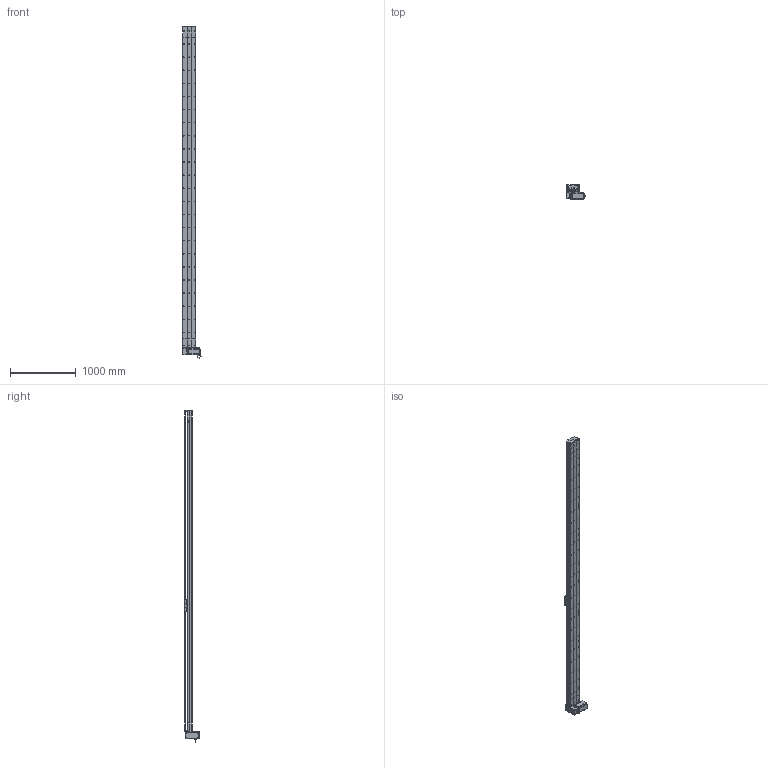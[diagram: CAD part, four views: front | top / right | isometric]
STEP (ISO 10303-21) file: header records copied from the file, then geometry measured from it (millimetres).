
FILE_DESCRIPTION (( 'STEP AP214' ), '1' );
FILE_NAME ('D20 TBH RU S4600.STEP', '2010-07-01T09:33:33', ( 'Conseil Régional Haute-Normandie' ), ( 'Conseil Régional Haute-Normandie' ), 'SwSTEP 2.0', 'SolidWorks 2010', '' );
FILE_SCHEMA (( 'AUTOMOTIVE_DESIGN' ));
Length unit declared in the file: millimetre
Products named in the file (40): Chariot D20B; vis M5 L70_Default; chariot D20B_Default; guide D20B; Plaque racord D20LH_Default; Renvoi RU D20_Default; vis M5 L25_Default; vis M5 L5_Default; couroie_Default; cache D20_Default; couvercle head D20_Default; rail head D20; corpl head D20_Default; Moteur motionking 110BLDC170A-640x; cache arbre D20_Default; plaque de  bout head D20B RU_Default; poulie head D20_Default; head RU_Default; rail tail D20; corpl tail D20_Default; tail D20_Default; vis M5 L8 90°_Default; plaque de  bout tail D20_Default; poulie tail D20_Default; tete d''axe poulie D20B; couvercle tail D20_Default; Couroie tail D20_Default; vis M5 L12_Default; Conecteur2_Default; codeur 110BLDC170A-630x; corps 110BLDC170A-630x; Conecteur_Default; vis M8 L12_Default; clavette; avant 110BLDC170A-630x; D20 TBH RU S4600; Course B L4600_Default; rail + couroie  D20 S4600; couvercle D20 S4600_Default; corp D20 S4600_Default
Assembly tree (71 placements, depth 4):
  D20 TBH RU S4600
    tail D20_Default
      vis M5 L8 90°_Default  x2
      vis M5 L25_Default  x2
      tete d''axe poulie D20B
      vis M5 L12_Default  x4
      plaque de  bout tail D20_Default
      Couroie tail D20_Default
      corpl tail D20_Default
      couvercle tail D20_Default
      rail tail D20
      poulie tail D20_Default
    chariot D20B_Default
      guide D20B  x2
      Chariot D20B
      vis M5 L12_Default  x4
    Course B L4600_Default
      couvercle D20 S4600_Default
      rail + couroie  D20 S4600
      corp D20 S4600_Default
    head RU_Default
      cache arbre D20_Default
      vis M5 L12_Default  x10
      vis M5 L5_Default  x4
      vis M5 L70_Default  x4
      plaque de  bout head D20B RU_Default
      vis M8 L12_Default  x4
      Plaque racord D20LH_Default
      poulie head D20_Default
      Renvoi RU D20_Default
      Moteur motionking 110BLDC170A-640x
        clavette
        corps 110BLDC170A-630x
        avant 110BLDC170A-630x
        codeur 110BLDC170A-630x
        Conecteur2_Default
        Conecteur_Default
      couroie_Default
      vis M5 L25_Default  x2
      cache D20_Default  x2
      rail head D20
      corpl head D20_Default
      couvercle head D20_Default
Bounding box: 304.2 x 223.2 x 5065 mm (x, y, z)
Volume: 38006689 mm3; surface area: 9555490.3 mm2
Topology: 95 solids, 95 shells, 2998 faces, 7866 edges, 5095 vertices
Faces by surface type: plane 1665, cylinder 1009, bspline 136, cone 99, torus 89
Entity records: 100135 total; most frequent: CARTESIAN_POINT 33213, ORIENTED_EDGE 12388, DIRECTION 11539, EDGE_CURVE 6194, VERTEX_POINT 4081, AXIS2_PLACEMENT_3D 3871, VECTOR 3797, LINE 3797
